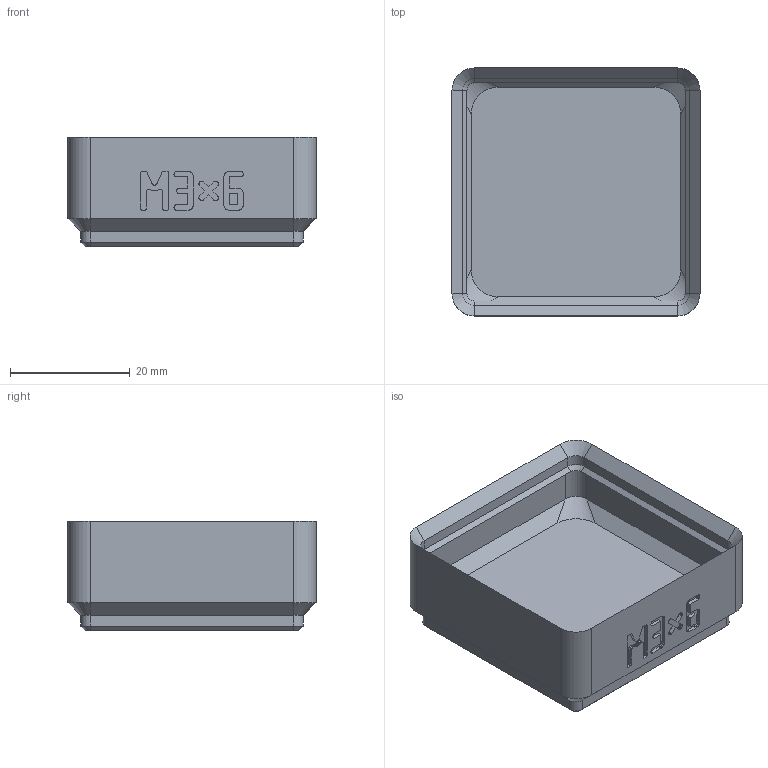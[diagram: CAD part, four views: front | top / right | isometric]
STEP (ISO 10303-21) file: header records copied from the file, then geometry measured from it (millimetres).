
FILE_DESCRIPTION(('Open CASCADE Model'),'2;1');
FILE_NAME('bin_m3x6','2026-11-03T16:47:39',('Author'),('Open CASCADE'), 'Open CASCADE STEP processor 8.0','build123d','Unknown');
FILE_SCHEMA(('AUTOMOTIVE_DESIGN { 1 0 10303 214 1 1 1 1 }'));
Length unit declared in the file: millimetre
Products named in the file (1): bin_m3x6
Bounding box: 41.5 x 41.5 x 18.4 mm (x, y, z)
Volume: 11002 mm3; surface area: 8278.7 mm2
Topology: 1 solids, 1 shells, 526 faces, 1474 edges, 964 vertices
Faces by surface type: plane 478, cylinder 24, cone 16, bspline 8
Full cylindrical faces by diameter (mm): 3.2 x4, 6.5 x4
Entity records: 34766 total; most frequent: CARTESIAN_POINT 7041, DIRECTION 4492, LINE 3306, VECTOR 3306, ORIENTED_EDGE 2948, PCURVE 2948, DEFINITIONAL_REPRESENTATION 2948, EDGE_CURVE 1474
